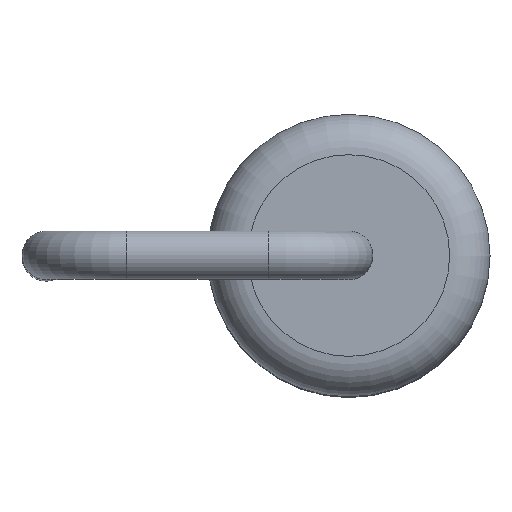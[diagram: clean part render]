
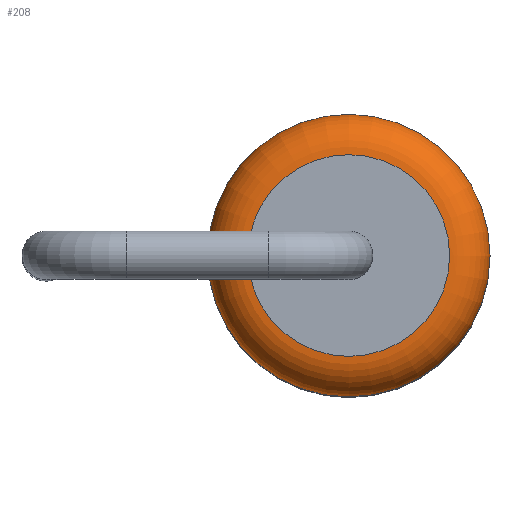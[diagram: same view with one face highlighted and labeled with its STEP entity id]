
A CAD part, top view. The second image highlights one B-rep face of the part: STEP entity #208.
In plain terms, the highlighted toroidal (fillet/blend) face has major radius 1.25 mm and minor radius 0.5 mm.
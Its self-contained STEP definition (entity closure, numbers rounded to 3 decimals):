
#208=ADVANCED_FACE('',(#377,#379),#381,.T.);
#377=FACE_OUTER_BOUND('',#378,.T.);
#378=EDGE_LOOP('',(#468));
#379=FACE_OUTER_BOUND('',#380,.T.);
#380=EDGE_LOOP('',(#469));
#381=TOROIDAL_SURFACE('',#382,1.25,0.5);
#382=AXIS2_PLACEMENT_3D('',#383,#384,#385);
#383=CARTESIAN_POINT('',(0.,0.,3.));
#384=DIRECTION('',(0.,0.,1.));
#385=DIRECTION('',(1.,0.,0.));
#468=ORIENTED_EDGE('',*,*,#493,.T.);
#469=ORIENTED_EDGE('',*,*,#494,.F.);
#493=EDGE_CURVE('',#521,#521,#522,.T.);
#494=EDGE_CURVE('',#523,#523,#524,.T.);
#521=VERTEX_POINT('',#587);
#522=CIRCLE('',#588,1.75);
#523=VERTEX_POINT('',#592);
#524=CIRCLE('',#593,1.25);
#587=CARTESIAN_POINT('',(1.75,0.,3.));
#588=AXIS2_PLACEMENT_3D('',#589,#590,#591);
#589=CARTESIAN_POINT('',(0.,0.,3.));
#590=DIRECTION('',(0.,0.,1.));
#591=DIRECTION('',(1.,0.,0.));
#592=CARTESIAN_POINT('',(1.25,0.,3.5));
#593=AXIS2_PLACEMENT_3D('',#594,#595,#596);
#594=CARTESIAN_POINT('',(0.,0.,3.5));
#595=DIRECTION('',(0.,0.,1.));
#596=DIRECTION('',(1.,0.,0.));
